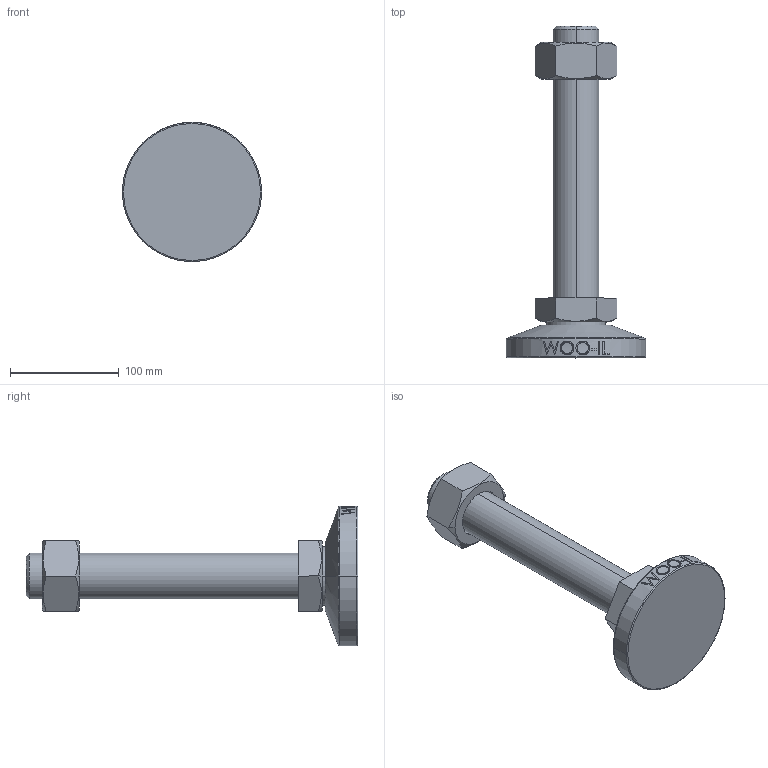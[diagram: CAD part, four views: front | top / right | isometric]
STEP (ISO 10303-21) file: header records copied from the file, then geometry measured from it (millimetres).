
FILE_DESCRIPTION (( 'STEP AP214' ), '1' );
FILE_NAME ('WTrB42-128-Tr42-250.step', '2021-03-16T05:59:58', ( '' ), ( '' ), 'SwSTEP 2.0', 'SolidWorks 2019', '' );
FILE_SCHEMA (( 'AUTOMOTIVE_DESIGN' ));
Length unit declared in the file: millimetre
Products named in the file (2): WTrB42-128-Tr42-250
Bounding box: 128 x 305 x 128 mm (x, y, z)
Volume: 830239.5 mm3; surface area: 94705.1 mm2
Topology: 3 solids, 3 shells, 97 faces, 225 edges, 144 vertices
Faces by surface type: plane 47, cylinder 16, bspline 16, cone 14, torus 4
Entity records: 4494 total; most frequent: CARTESIAN_POINT 2350, ORIENTED_EDGE 450, DIRECTION 387, EDGE_CURVE 225, AXIS2_PLACEMENT_3D 145, VERTEX_POINT 144, EDGE_LOOP 109, ADVANCED_FACE 97
